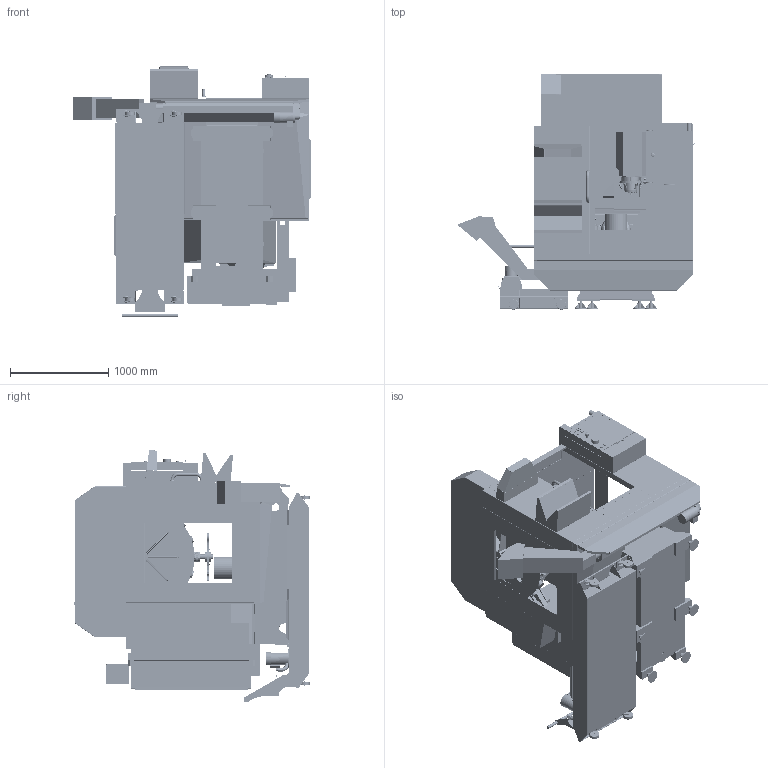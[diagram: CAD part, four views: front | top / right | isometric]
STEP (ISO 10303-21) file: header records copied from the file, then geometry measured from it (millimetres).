
FILE_DESCRIPTION (( 'STEP AP214' ), '1' );
FILE_NAME ('10000219702.STEP', '2023-09-29T20:49:16', ( '' ), ( '' ), 'SwSTEP 2.0', 'SolidWorks 2022', '' );
FILE_SCHEMA (( 'AUTOMOTIVE_DESIGN' ));
Length unit declared in the file: inch
Products named in the file (64): TC-ARM_UMC-350; DOOR_UMC-350HD_1_2023; PENDANT_UMC-350HD_1_2023; 10000180621_01_2022(CORE SPINDLE HEAD_defeature); Door-UMC350; ENCLOSURE _UMC-350HD_1_2023; ELECTIRCAL CABINET(DOOR OPEN)_Door Closed; T-SLOT PLATTER_UMC-350HD_1_2023; CORE SPINDLE HEAD_defeature^10000180621_01_2022; A6 Platter Option_UMC-350; JA_defeature^10000180686_01_2022; 10000191610_01_2022_defeature; PENDANT BODY; BASE_UMC-350HD_1_2023; Base_UMC-350; 40-165401_2022; 18-SMTC_UMC-350HD_1_2023; WIPS_UMC-350HD_1_2023; CHIP CHUTE_UMC-350HD_1_2023; PADS_UMC-350HD_1_2023; ZERO POINT PLATTER_UMC-350HD_1_2023; WEDGE_UMC-350HD_1_2023; 10000180626_01_2022(JA_defeature); A6 PLATTER_UMC-350HD_1_2023; PROGRAMMABLE COOLANT_UMC-350HD_1_2023; ENCLOSURE-PRT; 10000093313_UMC_350(Default_defeature); 1000018094201_2022; AIR CABIN_UMC-350HD_1_2023; High Pressure Clamp_UMC-350; 40-176001_2022; CONV PKG_UMC-350HD_1_2023; 55-Gal Coolant Tank; JA_defeature^10000180626_01_2022; 10000180686_01_2022(JA_defeature); 10000219702; BRIDGE _UMC-350HD_1_2023; 10000180128_01_2022(JA_defeature); T-Slot Platter-1_UMC-350; TC-ARMS_UMC-350HD_1_2023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
Assembly tree (71 placements, depth 5):
  10000219702
    BASE_UMC-350HD_1_2023
      10000180128_01_2022(JA_defeature)
        JA_defeature^10000180128_01_2022
    ENCLOSURE _UMC-350HD_1_2023
      PENDANT CABINET_Shelf closed
      ENCLOSURE-PRT
    B-AXIS_UMC-350HD_1_2023
      B Axis_UMC-350
      High Pressure Clamp_UMC-350
    ZERO POINT PLATTER_UMC-350HD_1_2023
      Zero Point Platter_UMC-350
    BOLT PATTERN PLATTER_UMC-350HD_1_2023
      Bolt Pattern Platter_UMC-350
    A6 PLATTER_UMC-350HD_1_2023
      A6 Platter Option_UMC-350
    T-SLOT PLATTER_UMC-350HD_1_2023
      T-Slot Platter-1_UMC-350
    10000247094
    WIPS_UMC-350HD_1_2023
      WIPS(Default)
        1000018094301_2022
          1000018094201_2022
        1000018608301_2022
        40-176001_2022  x3
        40-165401_2022
    SPINDLE HEAD _UMC-350HD_1_2023
      1000011238901_2022(JA_defeature)
        JA_defeature^1000011238901_2022
      10000180621_01_2022(CORE SPINDLE HEAD_defeature)
        CORE SPINDLE HEAD_defeature^10000180621_01_2022
    WEDGE_UMC-350HD_1_2023
      10000180686_01_2022(JA_defeature)
        JA_defeature^10000180686_01_2022
    BRIDGE _UMC-350HD_1_2023
      10000180626_01_2022(JA_defeature)
        JA_defeature^10000180626_01_2022
    18-SMTC_UMC-350HD_1_2023
      10000191610_01_2022_defeature
    SADDLE_UMC-350HD_1_2023
      Base_UMC-350
      SADDLE_UMC-350HD
    CHIP CHUTE_UMC-350HD_1_2023
      10000093313_UMC_350(Default_defeature)
        Default_defeature^10000093313_UMC_350
    PADS_UMC-350HD_1_2023
      Pads_DF  x6
    55-GAL COOLANT TANK_UMC-350HD_1_2023
      55-Gal Coolant Tank
    PROGRAMMABLE COOLANT_UMC-350HD_1_2023
      HAAS-P-COOL
    DOOR_UMC-350HD_1_2023
      Door-UMC350
    E-CABIN_UMC-350HD_1_2023
      ELECTIRCAL CABINET(DOOR OPEN)_Door Closed
    AIR CABIN_UMC-350HD_1_2023
      AIR-CABIN(OPEN )
    PENDANT_UMC-350HD_1_2023
      PENDANT BODY
    CONV PKG_UMC-350HD_1_2023
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Bounding box: 2416.95 x 2396.67 x 2573.59 mm (x, y, z)
Volume: 1431669938.5 mm3; surface area: 82563862.7 mm2
Topology: 49 solids, 106 shells, 19904 faces, 51584 edges, 32540 vertices
Faces by surface type: plane 11122, cylinder 5386, cone 1481, bspline 1231, torus 494, sphere 190
Entity records: 717254 total; most frequent: CARTESIAN_POINT 174480, ORIENTED_EDGE 99414, DIRECTION 92237, EDGE_CURVE 49707, VERTEX_POINT 31591, AXIS2_PLACEMENT_3D 31301, LINE 29635, VECTOR 29635
